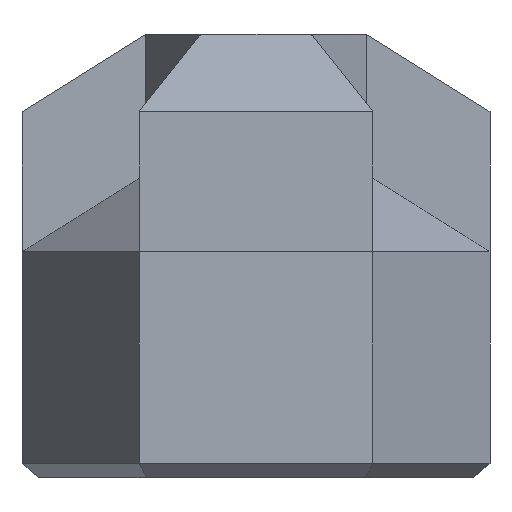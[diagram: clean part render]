
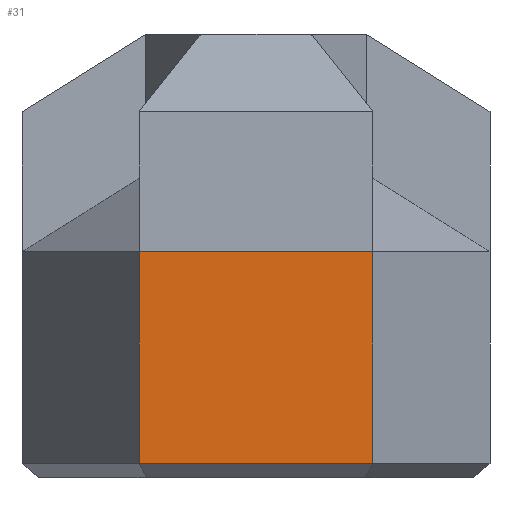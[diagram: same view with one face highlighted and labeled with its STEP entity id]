
A CAD part, front view. The second image highlights one B-rep face of the part: STEP entity #31.
In plain terms, the highlighted planar face has unit normal (0, -1, 0).
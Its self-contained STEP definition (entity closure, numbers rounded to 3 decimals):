
#31=ADVANCED_FACE('',(#63),#427,.T.);
#63=FACE_OUTER_BOUND('',#95,.T.);
#95=EDGE_LOOP('',(#180,#181,#182,#183));
#180=ORIENTED_EDGE('',*,*,#286,.F.);
#181=ORIENTED_EDGE('',*,*,#257,.F.);
#182=ORIENTED_EDGE('',*,*,#285,.T.);
#183=ORIENTED_EDGE('',*,*,#291,.F.);
#257=EDGE_CURVE('',#387,#386,#323,.T.);
#285=EDGE_CURVE('',#387,#405,#351,.T.);
#286=EDGE_CURVE('',#386,#406,#352,.T.);
#291=EDGE_CURVE('',#406,#405,#357,.T.);
#323=B_SPLINE_CURVE_WITH_KNOTS('',1,(#698,#699),.UNSPECIFIED.,.F.,.F.,(2,
2),(10.507,21.015),.UNSPECIFIED.);
#351=B_SPLINE_CURVE_WITH_KNOTS('',1,(#754,#755),.UNSPECIFIED.,.F.,.F.,(2,
2),(31.943,41.033),.UNSPECIFIED.);
#352=B_SPLINE_CURVE_WITH_KNOTS('',1,(#756,#757),.UNSPECIFIED.,.F.,.F.,(2,
2),(31.943,41.033),.UNSPECIFIED.);
#357=B_SPLINE_CURVE_WITH_KNOTS('',1,(#766,#767),.UNSPECIFIED.,.F.,.F.,(2,
2),(0.,10.034),.UNSPECIFIED.);
#386=VERTEX_POINT('',#644);
#387=VERTEX_POINT('',#645);
#405=VERTEX_POINT('',#663);
#406=VERTEX_POINT('',#664);
#427=PLANE('',#547);
#547=AXIS2_PLACEMENT_3D('',#617,#582,$);
#582=DIRECTION('',(0.,-1.,0.));
#617=CARTESIAN_POINT('',(-5.017,-8.689,9.69));
#644=CARTESIAN_POINT('',(5.017,-8.689,9.69));
#645=CARTESIAN_POINT('',(-5.017,-8.689,9.69));
#663=CARTESIAN_POINT('',(-5.017,-8.689,0.6));
#664=CARTESIAN_POINT('',(5.017,-8.689,0.6));
#698=CARTESIAN_POINT('',(-5.017,-8.689,9.69));
#699=CARTESIAN_POINT('',(5.017,-8.689,9.69));
#754=CARTESIAN_POINT('',(-5.017,-8.689,9.69));
#755=CARTESIAN_POINT('',(-5.017,-8.689,0.6));
#756=CARTESIAN_POINT('',(5.017,-8.689,9.69));
#757=CARTESIAN_POINT('',(5.017,-8.689,0.6));
#766=CARTESIAN_POINT('',(5.017,-8.689,0.6));
#767=CARTESIAN_POINT('',(-5.017,-8.689,0.6));
